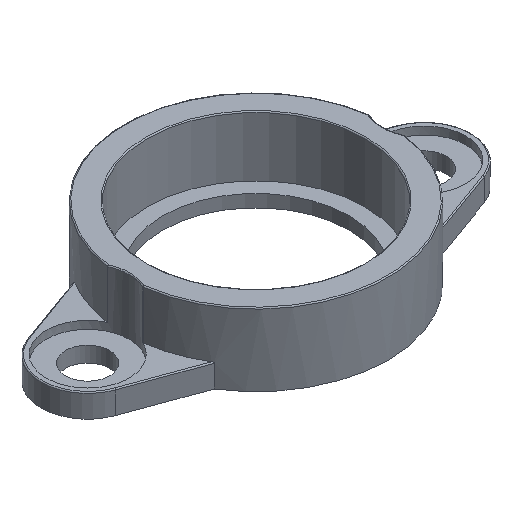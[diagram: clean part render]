
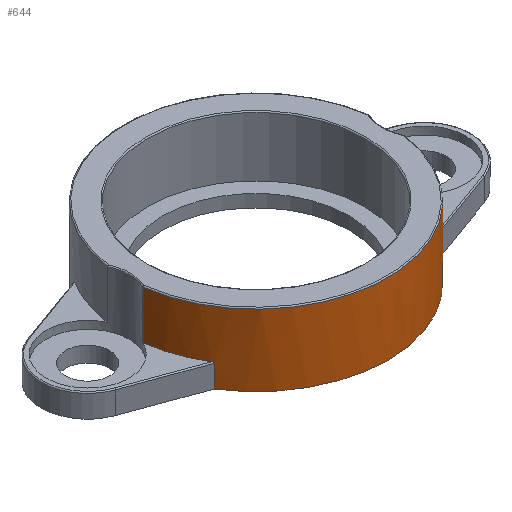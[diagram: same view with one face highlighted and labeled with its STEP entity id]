
A CAD part, isometric view. The second image highlights one B-rep face of the part: STEP entity #644.
In plain terms, the highlighted cylindrical face has radius 25.5 mm (diameter 51 mm), a partial arc.
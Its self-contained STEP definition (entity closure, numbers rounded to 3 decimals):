
#72=FACE_OUTER_BOUND('',#113,.T.);
#113=EDGE_LOOP('',(#524,#525,#526,#527,#528,#529,#530,#531,#532,#533));
#131=B_SPLINE_CURVE_WITH_KNOTS('',3,(#1008,#1009,#1010,#1011,#1012,#1013,
#1014,#1015,#1016,#1017,#1018,#1019),.UNSPECIFIED.,.F.,.F.,(4,2,2,2,2,4),
(-0.08,-0.076,-0.072,-0.065,
-0.052,-0.04),.UNSPECIFIED.);
#134=B_SPLINE_CURVE_WITH_KNOTS('',3,(#1087,#1088,#1089,#1090,#1091,#1092,
#1093,#1094,#1095,#1096,#1097,#1098),.UNSPECIFIED.,.F.,.F.,(4,2,2,2,2,4),
(0.04,0.052,0.065,0.072,
0.076,0.08),.UNSPECIFIED.);
#143=LINE('',#1056,#177);
#151=LINE('',#1106,#185);
#157=LINE('',#1151,#191);
#162=LINE('',#1190,#196);
#177=VECTOR('',#804,10.);
#185=VECTOR('',#828,10.);
#191=VECTOR('',#882,10.);
#196=VECTOR('',#933,10.);
#240=CIRCLE('',#739,25.5);
#245=CIRCLE('',#747,25.5);
#246=CIRCLE('',#748,25.5);
#247=CIRCLE('',#749,25.5);
#261=VERTEX_POINT('',#1005);
#262=VERTEX_POINT('',#1007);
#270=VERTEX_POINT('',#1055);
#277=VERTEX_POINT('',#1085);
#278=VERTEX_POINT('',#1086);
#280=VERTEX_POINT('',#1104);
#290=VERTEX_POINT('',#1135);
#292=VERTEX_POINT('',#1141);
#294=VERTEX_POINT('',#1147);
#306=VERTEX_POINT('',#1188);
#318=EDGE_CURVE('',#261,#262,#131,.F.);
#331=EDGE_CURVE('',#270,#262,#143,.T.);
#340=EDGE_CURVE('',#277,#278,#134,.F.);
#345=EDGE_CURVE('',#277,#280,#151,.T.);
#367=EDGE_CURVE('',#292,#294,#157,.T.);
#384=EDGE_CURVE('',#290,#292,#240,.T.);
#386=EDGE_CURVE('',#306,#290,#162,.T.);
#392=EDGE_CURVE('',#306,#278,#245,.T.);
#393=EDGE_CURVE('',#270,#280,#246,.T.);
#394=EDGE_CURVE('',#261,#294,#247,.T.);
#524=ORIENTED_EDGE('',*,*,#367,.F.);
#525=ORIENTED_EDGE('',*,*,#384,.F.);
#526=ORIENTED_EDGE('',*,*,#386,.F.);
#527=ORIENTED_EDGE('',*,*,#392,.T.);
#528=ORIENTED_EDGE('',*,*,#340,.F.);
#529=ORIENTED_EDGE('',*,*,#345,.T.);
#530=ORIENTED_EDGE('',*,*,#393,.F.);
#531=ORIENTED_EDGE('',*,*,#331,.T.);
#532=ORIENTED_EDGE('',*,*,#318,.F.);
#533=ORIENTED_EDGE('',*,*,#394,.T.);
#610=CYLINDRICAL_SURFACE('',#746,25.5);
#644=ADVANCED_FACE('',(#72),#610,.T.);
#739=AXIS2_PLACEMENT_3D('',#1185,#927,#928);
#746=AXIS2_PLACEMENT_3D('',#1199,#944,#945);
#747=AXIS2_PLACEMENT_3D('',#1200,#946,#947);
#748=AXIS2_PLACEMENT_3D('',#1201,#948,#949);
#749=AXIS2_PLACEMENT_3D('',#1202,#950,#951);
#804=DIRECTION('',(0.,0.,1.));
#828=DIRECTION('',(0.,0.,-1.));
#882=DIRECTION('',(0.,0.,-1.));
#927=DIRECTION('center_axis',(0.,0.,1.));
#928=DIRECTION('ref_axis',(0.,-1.,0.));
#933=DIRECTION('',(0.,0.,1.));
#944=DIRECTION('center_axis',(0.,0.,1.));
#945=DIRECTION('ref_axis',(-1.,0.,0.));
#946=DIRECTION('center_axis',(0.,0.,1.));
#947=DIRECTION('ref_axis',(-1.,0.,0.));
#948=DIRECTION('center_axis',(0.,0.,-1.));
#949=DIRECTION('ref_axis',(-1.,0.,0.));
#950=DIRECTION('center_axis',(0.,0.,1.));
#951=DIRECTION('ref_axis',(-1.,0.,0.));
#1005=CARTESIAN_POINT('',(21.776,-13.268,4.5));
#1007=CARTESIAN_POINT('',(21.607,-13.542,4.3));
#1008=CARTESIAN_POINT('Ctrl Pts',(21.607,-13.542,4.3));
#1009=CARTESIAN_POINT('Ctrl Pts',(21.607,-13.542,4.312));
#1010=CARTESIAN_POINT('Ctrl Pts',(21.608,-13.541,4.325));
#1011=CARTESIAN_POINT('Ctrl Pts',(21.612,-13.534,4.349));
#1012=CARTESIAN_POINT('Ctrl Pts',(21.615,-13.53,4.361));
#1013=CARTESIAN_POINT('Ctrl Pts',(21.626,-13.512,4.394));
#1014=CARTESIAN_POINT('Ctrl Pts',(21.636,-13.496,4.413));
#1015=CARTESIAN_POINT('Ctrl Pts',(21.664,-13.45,4.453));
#1016=CARTESIAN_POINT('Ctrl Pts',(21.686,-13.416,4.471));
#1017=CARTESIAN_POINT('Ctrl Pts',(21.731,-13.342,4.495));
#1018=CARTESIAN_POINT('Ctrl Pts',(21.755,-13.303,4.5));
#1019=CARTESIAN_POINT('Ctrl Pts',(21.776,-13.268,4.5));
#1055=CARTESIAN_POINT('',(21.607,-13.542,0.));
#1056=CARTESIAN_POINT('',(21.607,-13.542,0.));
#1085=CARTESIAN_POINT('',(-21.607,-13.542,4.3));
#1086=CARTESIAN_POINT('',(-21.776,-13.268,4.5));
#1087=CARTESIAN_POINT('Ctrl Pts',(-21.776,-13.268,4.5));
#1088=CARTESIAN_POINT('Ctrl Pts',(-21.755,-13.303,4.5));
#1089=CARTESIAN_POINT('Ctrl Pts',(-21.731,-13.342,4.495));
#1090=CARTESIAN_POINT('Ctrl Pts',(-21.686,-13.416,4.471));
#1091=CARTESIAN_POINT('Ctrl Pts',(-21.664,-13.45,4.453));
#1092=CARTESIAN_POINT('Ctrl Pts',(-21.636,-13.496,4.413));
#1093=CARTESIAN_POINT('Ctrl Pts',(-21.626,-13.512,4.394));
#1094=CARTESIAN_POINT('Ctrl Pts',(-21.615,-13.53,4.361));
#1095=CARTESIAN_POINT('Ctrl Pts',(-21.612,-13.534,4.349));
#1096=CARTESIAN_POINT('Ctrl Pts',(-21.608,-13.541,4.325));
#1097=CARTESIAN_POINT('Ctrl Pts',(-21.607,-13.542,4.312));
#1098=CARTESIAN_POINT('Ctrl Pts',(-21.607,-13.542,4.3));
#1104=CARTESIAN_POINT('',(-21.607,-13.542,0.));
#1106=CARTESIAN_POINT('',(-21.607,-13.542,0.));
#1135=CARTESIAN_POINT('',(-25.261,-3.482,13.8));
#1141=CARTESIAN_POINT('',(25.261,-3.482,13.8));
#1147=CARTESIAN_POINT('',(25.261,-3.482,4.5));
#1151=CARTESIAN_POINT('',(25.261,-3.482,0.));
#1185=CARTESIAN_POINT('Origin',(0.,0.,13.8));
#1188=CARTESIAN_POINT('',(-25.261,-3.482,4.5));
#1190=CARTESIAN_POINT('',(-25.261,-3.482,0.));
#1199=CARTESIAN_POINT('Origin',(0.,0.,0.));
#1200=CARTESIAN_POINT('Origin',(0.,0.,4.5));
#1201=CARTESIAN_POINT('Origin',(0.,0.,0.));
#1202=CARTESIAN_POINT('Origin',(0.,0.,4.5));
